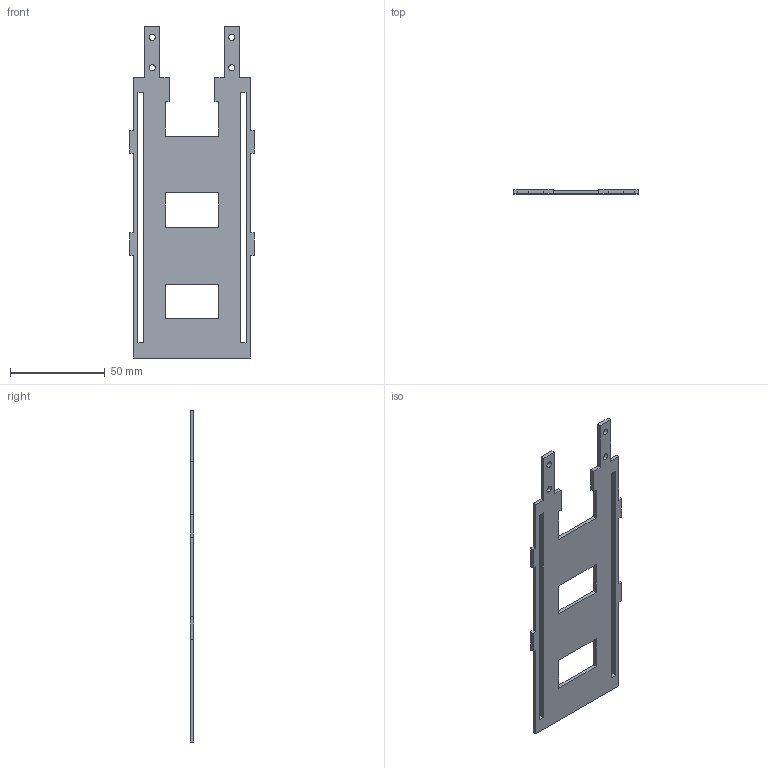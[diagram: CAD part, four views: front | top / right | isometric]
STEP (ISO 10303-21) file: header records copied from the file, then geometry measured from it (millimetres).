
FILE_DESCRIPTION(('Open CASCADE Model'),'2;1');
FILE_NAME('Open CASCADE Shape Model','2026-09-13T11:11:46',('Author'),( 'Open CASCADE'),'Open CASCADE STEP processor 7.9','Open CASCADE 7.9' ,'Unknown');
FILE_SCHEMA(('AUTOMOTIVE_DESIGN { 1 0 10303 214 1 1 1 1 }'));
Length unit declared in the file: millimetre
Products named in the file (1): Open CASCADE STEP translator 7.9 3
Bounding box: 65.6 x 2 x 175 mm (x, y, z)
Volume: 14088.4 mm3; surface area: 16844.1 mm2
Topology: 1 solids, 1 shells, 58 faces, 168 edges, 112 vertices
Faces by surface type: plane 54, cylinder 4
Full cylindrical faces by diameter (mm): 3.3 x4
Entity records: 4024 total; most frequent: CARTESIAN_POINT 757, DIRECTION 548, LINE 406, VECTOR 406, ORIENTED_EDGE 336, PCURVE 336, DEFINITIONAL_REPRESENTATION 336, EDGE_CURVE 168
